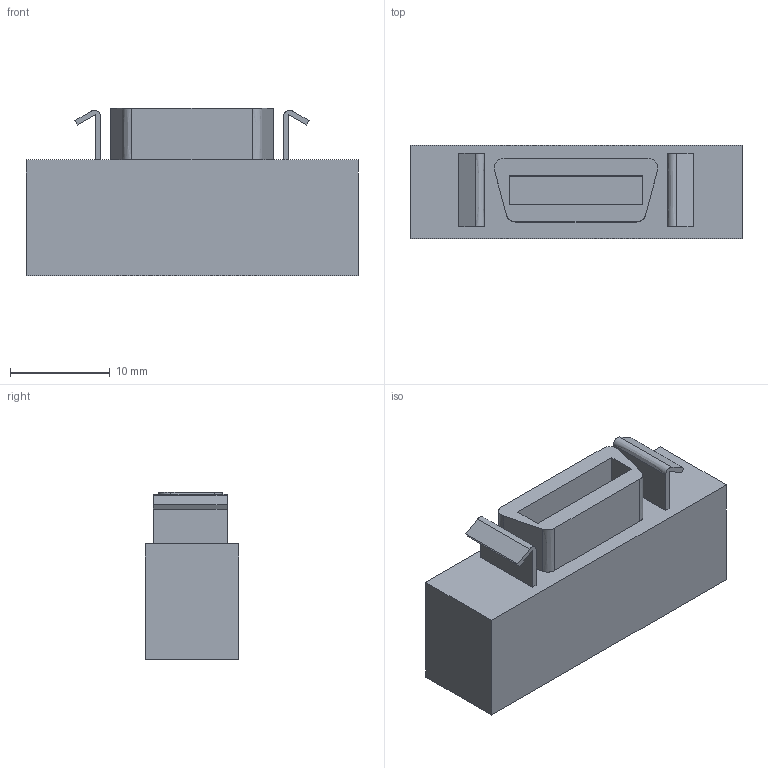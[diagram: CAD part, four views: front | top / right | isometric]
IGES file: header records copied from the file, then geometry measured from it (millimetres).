
Start section:  PTC IGES file: j5-cn3.igs
Global section: file name: j5-cn3.igs; native system: Creo Parametric by PTC Inc.; preprocessor: 2020184; author: MK09300; organization: Unknown; date: 20210805.154429; units: millimetre
Bounding box: 33.35 x 9.35 x 16.85 mm (x, y, z)
Surface area: 2229.9 mm2 (no closed solid volume)
Topology: 0 solids, 0 shells, 36 faces, 180 edges, 180 vertices
Faces by surface type: bspline 36
